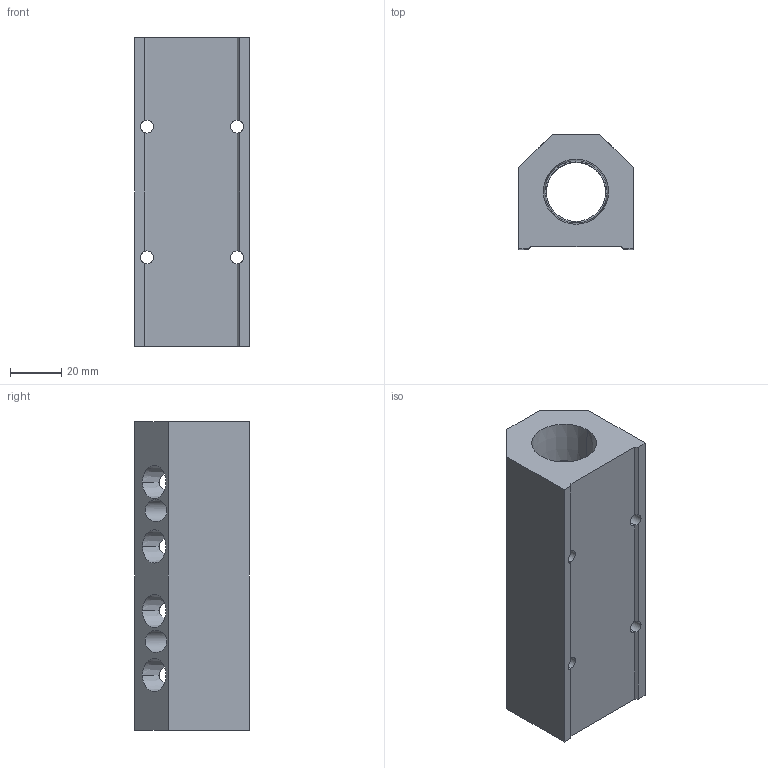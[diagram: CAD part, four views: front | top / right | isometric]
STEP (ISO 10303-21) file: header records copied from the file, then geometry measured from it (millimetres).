
FILE_DESCRIPTION (( 'STEP AP214' ), '1' );
FILE_NAME ('ALM4BCD-N4N12-120R.step', '2022-02-06T14:06:04', ( '' ), ( '' ), 'SwSTEP 2.0', 'SolidWorks 2020', '' );
FILE_SCHEMA (( 'AUTOMOTIVE_DESIGN' ));
Length unit declared in the file: millimetre
Products named in the file (1): ALM4BCD-N4N12-120R
Bounding box: 44.5 x 44.5 x 120 mm (x, y, z)
Volume: 140738.3 mm3; surface area: 35654.2 mm2
Topology: 1 solids, 1 shells, 344 faces, 941 edges, 622 vertices
Faces by surface type: plane 222, bspline 55, cone 38, cylinder 29
Entity records: 18635 total; most frequent: CARTESIAN_POINT 7327, ORIENTED_EDGE 1882, DIRECTION 1397, EDGE_CURVE 941, VECTOR 645, LINE 645, VERTEX_POINT 622, EDGE_LOOP 401
